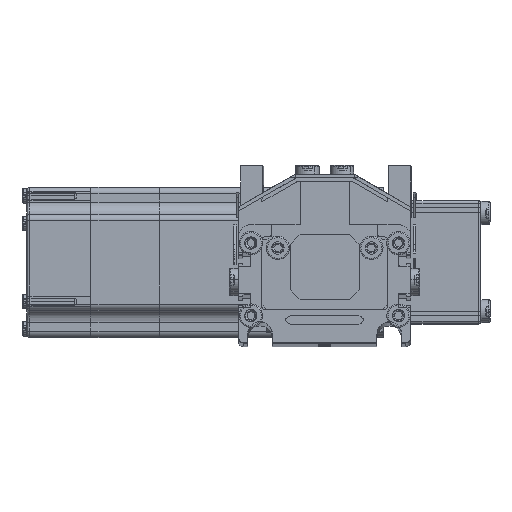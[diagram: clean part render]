
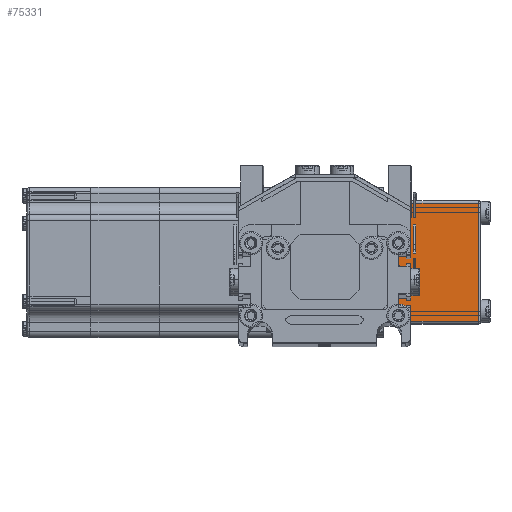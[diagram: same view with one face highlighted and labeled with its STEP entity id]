
A CAD part, top view. The second image highlights one B-rep face of the part: STEP entity #75331.
In plain terms, the highlighted planar face has unit normal (0, 0, 1) as drawn and (-1, 0, 0) by its records, which use the part's own axes.
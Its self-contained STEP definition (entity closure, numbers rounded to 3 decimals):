
#74971 = VERTEX_POINT ( 'NONE', #143743 ) ;
#74984 = EDGE_CURVE ( 'NONE', #74991, #74971, #143901, .T. ) ;
#74991 = VERTEX_POINT ( 'NONE', #143889 ) ;
#75295 = ORIENTED_EDGE ( 'NONE', *, *, #75585, .T. ) ;
#75298 = EDGE_CURVE ( 'NONE', #75366, #74991, #144897, .T. ) ;
#75318 = VERTEX_POINT ( 'NONE', #144764 ) ;
#75331 = ADVANCED_FACE ( 'NONE', ( #144794 ), #144804, .F. ) ;
#75335 = EDGE_LOOP ( 'NONE', ( #75373, #75295, #75396, #75378 ) ) ;
#75366 = VERTEX_POINT ( 'NONE', #144943 ) ;
#75373 = ORIENTED_EDGE ( 'NONE', *, *, #74984, .T. ) ;
#75378 = ORIENTED_EDGE ( 'NONE', *, *, #75298, .T. ) ;
#75396 = ORIENTED_EDGE ( 'NONE', *, *, #75597, .T. ) ;
#75585 = EDGE_CURVE ( 'NONE', #74971, #75318, #145736, .T. ) ;
#75597 = EDGE_CURVE ( 'NONE', #75318, #75366, #146053, .T. ) ;
#143743 = CARTESIAN_POINT ( 'NONE',  ( -50., -24., 0. ) ) ;
#143889 = CARTESIAN_POINT ( 'NONE',  ( -50., 24., 0. ) ) ;
#143891 = VECTOR ( 'NONE', #143907, 1000. ) ;
#143901 = LINE ( 'NONE', #143908, #143891 ) ;
#143907 = DIRECTION ( 'NONE',  ( 0., -1., 0. ) ) ;
#143908 = CARTESIAN_POINT ( 'NONE',  ( -50., 25., 0. ) ) ;
#144764 = CARTESIAN_POINT ( 'NONE',  ( -50., -24., 38.5 ) ) ;
#144790 = CARTESIAN_POINT ( 'NONE',  ( -50., 25., 39.5 ) ) ;
#144794 = FACE_OUTER_BOUND ( 'NONE', #75335, .T. ) ;
#144801 = DIRECTION ( 'NONE',  ( 1., 0., 0. ) ) ;
#144804 = PLANE ( 'NONE',  #144846 ) ;
#144846 = AXIS2_PLACEMENT_3D ( 'NONE', #144790, #144801, #144996 ) ;
#144891 = DIRECTION ( 'NONE',  ( 0., 0., -1. ) ) ;
#144892 = VECTOR ( 'NONE', #144891, 1000. ) ;
#144895 = CARTESIAN_POINT ( 'NONE',  ( -50., 24., 39.5 ) ) ;
#144897 = LINE ( 'NONE', #144895, #144892 ) ;
#144943 = CARTESIAN_POINT ( 'NONE',  ( -50., 24., 38.5 ) ) ;
#144996 = DIRECTION ( 'NONE',  ( 0., 1., 0. ) ) ;
#145736 = LINE ( 'NONE', #145951, #145949 ) ;
#145761 = DIRECTION ( 'NONE',  ( 0., 1., 0. ) ) ;
#145947 = DIRECTION ( 'NONE',  ( 0., 0., 1. ) ) ;
#145949 = VECTOR ( 'NONE', #145947, 1000. ) ;
#145951 = CARTESIAN_POINT ( 'NONE',  ( -50., -24., 39.5 ) ) ;
#146025 = VECTOR ( 'NONE', #145761, 1000. ) ;
#146053 = LINE ( 'NONE', #146095, #146025 ) ;
#146095 = CARTESIAN_POINT ( 'NONE',  ( -50., 25., 38.5 ) ) ;
